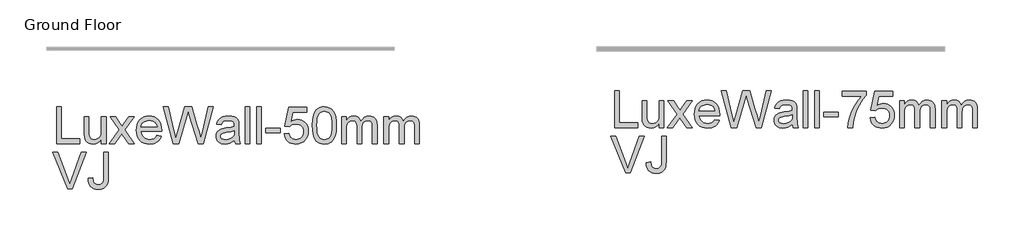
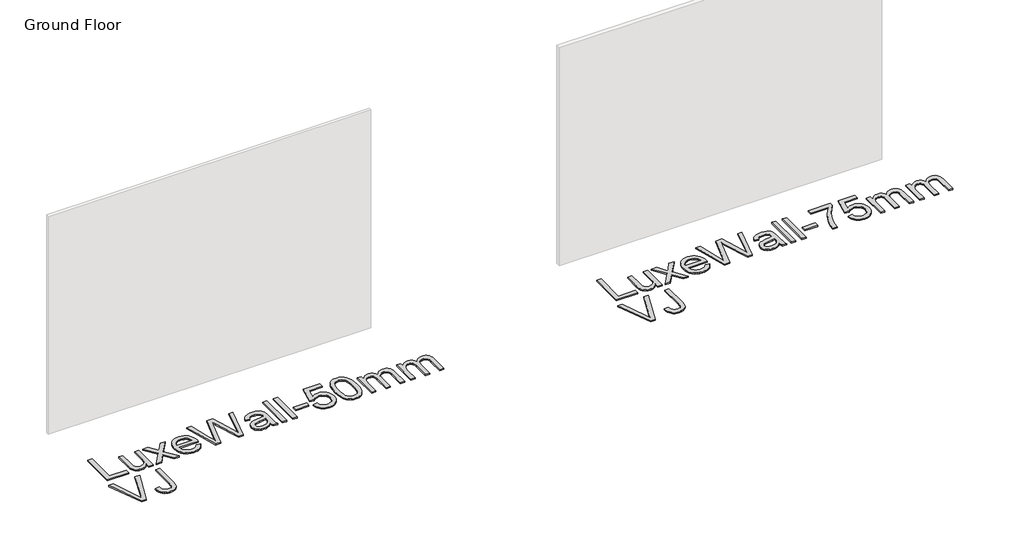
# One storey, part 3 of 3: 2 proxies.
"""IFC4 building model written with IfcOpenShell, lengths in millimetres."""

from ifc_helpers import new_model, si_unit, origin, origin_with_axes, place, context, project, spatial, polyline, outline, extrude, element, save

model = new_model("IFC4")

# Units and contexts
model_context = context("Model", 3, world=origin())
ifc_project = project(units=[si_unit("LENGTHUNIT", "METRE", prefix="MILLI")], contexts=[model_context])

# Site, building, storey
site = spatial("IfcSite", under=ifc_project)
building = spatial("IfcBuilding", under=site)
storey = spatial("IfcBuildingStorey", under=building, Name="Ground Floor", Elevation=0.0)

# Proxies
placement = place(None, origin())
element("IfcBuildingElementProxy", 1, Name="600mm Arial", ObjectType="600mm Arial", at=placement, inside=storey, context=model_context, shape_type="SweptSolid", body=[
    extrude(outline(polyline([(10166.4436981, -209.5904829), (10166.4436981, 381.1787478), (10240.2898519, 381.1787478), (10240.2898519, -135.7443291), (10535.6744673, -135.7443291), (10535.6744673, -209.5904829), (10166.4436981, -209.5904829)])), origin_with_axes(), (0.0, 0.0, 1.0), 20.0),
    extrude(outline(polyline([(10886.4436981, -209.5904829), (10886.4436981, -135.0231753), (10859.7249481, -171.6848339), (10828.6071596, -197.8717329), (10793.0903327, -213.5838724), (10753.1744673, -218.8212522), (10717.2069192, -215.1433676), (10683.7273519, -204.1097137), (10655.6384096, -187.5231753), (10635.8427365, -167.1866368), (10622.5194192, -142.4871176), (10613.8475442, -112.8116368), (10609.5206212, -44.1577906), (10609.5206212, 224.2556709), (10683.366775, 224.2556709), (10683.366775, -9.3981753), (10684.4845635, -56.1289445), (10687.8379289, -84.6866368), (10698.60115, -109.8008195), (10717.0446596, -128.8933676), (10741.9424962, -140.9546656), (10772.0686981, -144.9750983), (10803.9256692, -140.8645214), (10833.7273519, -128.5327906), (10858.3006692, -109.1157233), (10874.4725442, -83.7491368), (10883.4509096, -49.0075503), (10886.4436981, -1.4654829), (10886.4436981, 224.2556709), (10960.2898519, 224.2556709), (10960.2898519, -209.5904829), (10886.4436981, -209.5904829)])), origin_with_axes(), (0.0, 0.0, 1.0), 20.0),
    extrude(outline(polyline([(11015.6744673, -209.5904829), (11173.4629289, 8.4864401), (11024.9052365, 224.2556709), (11113.7513904, 224.2556709), (11185.4340827, 120.4095171), (11218.8956212, 71.3710555), (11247.8860058, 111.4672094), (11329.5206212, 224.2556709), (11418.366775, 224.2556709), (11262.3090827, 8.4864401), (11412.5975442, -209.5904829), (11323.7513904, -209.5904829), (11233.3186981, -78.4847137), (11216.7321596, -54.542406), (11104.5206212, -209.5904829), (11015.6744673, -209.5904829)])), origin_with_axes(), (0.0, 0.0, 1.0), 20.0),
    extrude(outline(polyline([(11780.9629289, -80.3597137), (11853.366775, -89.5904829), (11842.265513, -118.589882), (11827.2790346, -144.1457714), (11808.4073399, -166.2581512), (11785.6504289, -184.9270214), (11759.2426764, -199.7557474), (11729.4184577, -210.3476945), (11696.1777726, -216.7028628), (11659.5206212, -218.8212522), (11613.7003087, -215.1659036), (11572.8739865, -204.1998579), (11537.0416548, -185.9231152), (11506.2033135, -160.3356753), (11481.4046356, -128.1496777), (11463.6912942, -90.0772618), (11453.0632894, -46.1184277), (11449.5206212, 3.7268247), (11453.0993471, 55.2622815), (11463.835525, 100.6859594), (11481.7291548, 139.9978584), (11506.7802365, 173.1979786), (11537.5374481, 199.5741805), (11572.5494673, 218.4143247), (11611.8162942, 229.7184113), (11655.3379289, 233.4864401), (11697.4578207, 229.7274257), (11735.5482654, 218.4503824), (11769.609263, 199.6553103), (11799.6408135, 173.3422094), (11824.155537, 140.2142046), (11841.6660539, 100.9744209), (11852.1723639, 55.6228584), (11855.6744673, 4.1595171), (11855.241775, -15.7443291), (11523.366775, -15.7443291), (11527.6441188, -45.2124781), (11536.1492269, -71.0207714), (11548.8820995, -93.1692089), (11565.8427365, -111.6577906), (11586.093638, -126.2341128), (11608.6973039, -136.6457714), (11633.6537341, -142.8927666), (11660.9629289, -144.9750983), (11700.2658135, -141.1169253), (11733.366775, -129.542406), (11760.2658135, -109.5303868), (11780.9629289, -80.3597137)]), holes=[polyline([(11523.366775, 58.1018247), (11781.8283135, 58.1018247), (11771.8403327, 97.1162478), (11763.2495875, 112.4587959), (11752.2610058, 125.0249017), (11732.1227846, 140.1691324), (11709.2081212, 150.9864401), (11683.5170154, 157.4768247), (11655.0494673, 159.6402863), (11629.0834216, 157.9140243), (11605.2718231, 152.7352382), (11583.6146716, 144.1039281), (11564.1119673, 132.020094), (11547.7462822, 117.04263), (11535.5001885, 99.7304305), (11527.3736861, 80.0834954), (11523.366775, 58.1018247)])]), origin_with_axes(), (0.0, 0.0, 1.0), 20.0),
    extrude(outline(polyline([(12044.4725442, -209.5904829), (11883.366775, 381.1787478), (11959.5206212, 381.1787478), (12052.9821596, -7.0904829), (12081.8283135, -126.9462522), (12112.6936981, -20.9366368), (12229.8090827, 381.1787478), (12339.5686981, 381.1787478), (12424.6648519, 89.6883632), (12461.1191789, -18.4847137), (12487.9821596, -126.9462522), (12515.9629289, -10.5520214), (12610.2898519, 381.1787478), (12686.4436981, 381.1787478), (12525.1936981, -209.5904829), (12446.2994673, -209.5904829), (12304.6648519, 246.1787478), (12284.9052365, 309.7845171), (12262.6936981, 233.1979786), (12133.6071596, -209.5904829), (12044.4725442, -209.5904829)])), origin_with_axes(), (0.0, 0.0, 1.0), 20.0),
    extrude(outline(polyline([(13027.9821596, -154.2058676), (12992.6997077, -184.4582714), (12956.3715827, -204.2539445), (12918.1684577, -215.1794253), (12877.2610058, -218.8212522), (12844.3808976, -216.6307474), (12815.5482654, -210.0592329), (12790.7631091, -199.1067089), (12770.0254289, -183.7731753), (12753.6507293, -165.0321897), (12741.9545154, -143.8573099), (12734.936787, -120.2485358), (12732.5975442, -94.2058676), (12736.1311981, -63.5928868), (12746.7321596, -35.792406), (12763.0843231, -11.9943291), (12783.8715827, 6.6114401), (12808.3006692, 20.6739401), (12835.5783135, 30.8422094), (12899.4725442, 41.9479786), (12974.9773519, 53.6306709), (13027.5494673, 67.332594), (13027.9821596, 83.7749017), (13022.898025, 116.7316324), (13016.5428567, 128.9371613), (13007.6456212, 138.2941324), (12992.2670154, 147.6330747), (12973.5350442, 154.3037478), (12926.0110058, 159.6402863), (12882.0206212, 156.0886036), (12851.2994673, 145.4335555), (12830.3499481, 125.7280267), (12815.6744673, 95.0249017), (12741.8283135, 104.2556709), (12754.6468231, 144.6402863), (12773.7754289, 176.3710555), (12800.9989865, 200.6378824), (12838.1023519, 218.6306709), (12883.4809577, 229.7724978), (12935.5302365, 233.4864401), (12985.4521115, 230.2051901), (13025.0254289, 220.3614401), (13054.8631692, 205.5597574), (13075.5783135, 187.4047094), (13089.3162942, 164.9587959), (13098.2225442, 137.2845171), (13101.8283135, 72.6691324), (13101.8283135, -19.2058676), (13105.5783135, -147.4991368), (13111.1311981, -179.2118772), (13120.2898519, -209.5904829), (13046.4436981, -209.5904829), (13034.616775, -183.917406), (13027.9821596, -154.2058676)]), holes=[polyline([(13027.9821596, -6.5135599), (12978.366775, -18.8092329), (12908.8475442, -29.1577906), (12845.3138904, -41.1289445), (12828.7814385, -49.3140406), (12816.5398519, -60.6000983), (12808.9677365, -74.1217329), (12806.4436981, -89.0135599), (12811.9424962, -110.9726945), (12828.4388904, -128.9654829), (12855.5723039, -140.9726945), (12892.9821596, -144.9750983), (12932.6456212, -140.558031), (12967.6936981, -127.3068291), (12996.1071596, -107.7815887), (13015.866775, -84.542406), (13024.6287942, -60.6000983), (13027.5494673, -27.4270214), (13027.9821596, -6.5135599)])]), origin_with_axes(), (0.0, 0.0, 1.0), 20.0),
    extrude(outline(polyline([(13203.366775, -209.5904829), (13203.366775, 381.1787478), (13277.2129289, 381.1787478), (13277.2129289, -209.5904829), (13203.366775, -209.5904829)])), origin_with_axes(), (0.0, 0.0, 1.0), 20.0),
    extrude(outline(polyline([(13387.9821596, -209.5904829), (13387.9821596, 381.1787478), (13461.8283135, 381.1787478), (13461.8283135, -209.5904829), (13387.9821596, -209.5904829)])), origin_with_axes(), (0.0, 0.0, 1.0), 20.0),
    extrude(outline(polyline([(13535.6744673, -34.2058676), (13535.6744673, 39.6402863), (13766.4436981, 39.6402863), (13766.4436981, -34.2058676), (13535.6744673, -34.2058676)])), origin_with_axes(), (0.0, 0.0, 1.0), 20.0),
    extrude(outline(polyline([(13831.0590827, -52.667406), (13904.9052365, -43.4366368), (13910.4220635, -67.17612), (13918.4629289, -87.7695695), (13929.0278327, -105.2169853), (13942.116775, -119.5183676), (13957.7027125, -130.6556873), (13975.7586019, -138.6109156), (13996.2844433, -143.3840527), (14019.2802365, -144.9750983), (14047.4052365, -142.7620575), (14072.2129289, -136.1229349), (14093.7033135, -125.0577305), (14111.8763904, -109.5664445), (14126.3265106, -90.4153027), (14136.648025, -68.370531), (14142.8409337, -43.4321296), (14144.9052365, -15.6000983), (14142.9716428, 10.7039882), (14137.1708615, 34.0874017), (14127.5028928, 54.5501421), (14113.9677365, 72.0922094), (14096.5203207, 86.1637238), (14075.1155731, 96.2148055), (14049.7534938, 102.2454546), (14020.4340827, 104.2556709), (13984.6107654, 101.0465363), (13955.6023519, 91.4191324), (13932.4352846, 76.6715363), (13914.1360058, 58.1018247), (13840.2898519, 67.332594), (13904.9052365, 371.9479786), (14191.0590827, 371.9479786), (14191.0590827, 298.1018247), (13964.616775, 298.1018247), (13933.0302365, 135.4095171), (13959.0909337, 154.0874017), (13985.7826404, 167.4287478), (14013.1053567, 175.4335555), (14041.0590827, 178.1018247), (14077.0221236, 174.7935315), (14110.0554769, 164.8686517), (14140.1591428, 148.3271853), (14167.3331212, 125.1691324), (14189.8286139, 96.8097574), (14205.8968231, 64.6643247), (14215.5377486, 28.7328344), (14218.7513904, -10.9847137), (14215.8577606, -49.2419253), (14207.1768712, -84.8308676), (14192.7087221, -117.7515406), (14172.4533135, -148.0039445), (14141.7682173, -178.9865166), (14105.9629289, -201.1169253), (14065.0374481, -214.3951704), (14018.991775, -218.8212522), (13980.8833014, -215.9772017), (13946.4617269, -207.4450503), (13915.7270514, -193.2247978), (13888.679275, -173.3164445), (13866.1747678, -148.7115767), (13849.0699, -120.401781), (13837.3646716, -88.3870575), (13831.0590827, -52.667406)])), origin_with_axes(), (0.0, 0.0, 1.0), 20.0),
    extrude(outline(polyline([(14283.366775, 81.0345171), (14288.7934577, 175.5958151), (14295.5768111, 215.6964762), (14305.0735058, 251.0104786), (14317.2429769, 281.8262839), (14332.0446596, 308.4323536), (14349.4785539, 330.8286877), (14369.5446596, 349.0152863), (14392.3105851, 363.0868007), (14417.8439385, 373.1378824), (14446.1447197, 379.1685315), (14477.2129289, 381.1787478), (14522.7177365, 376.4191324), (14563.4629289, 362.1402863), (14597.5374481, 338.9011036), (14623.0302365, 307.2604786), (14642.2850442, 267.488844), (14657.6456212, 219.8566324), (14667.7057173, 159.3698536), (14671.0590827, 81.0345171), (14665.6864865, -12.9859156), (14658.9707414, -52.9513603), (14649.5686981, -88.2202906), (14637.4938784, -119.0496176), (14622.7598039, -145.6962522), (14605.3664745, -168.1601945), (14585.3138904, -186.4414445), (14562.5209216, -200.6076103), (14536.9064385, -210.7263003), (14508.4704409, -216.7975142), (14477.2129289, -218.8212522), (14436.5398519, -215.3056272), (14400.4821596, -204.7587522), (14369.0398519, -187.1806272), (14342.2129289, -162.5712522), (14316.4677365, -118.0850743), (14298.0783135, -62.6553868), (14287.0446596, 3.7178103), (14283.366775, 81.0345171)]), holes=[polyline([(14357.2129289, 81.1787478), (14359.3763904, 16.9825339), (14365.866775, -34.9811079), (14376.6840827, -74.7121777), (14391.8283135, -102.2106753), (14410.1456212, -120.9201103), (14430.4821596, -134.2839926), (14452.8379289, -142.3023219), (14477.2129289, -144.9750983), (14501.5879289, -142.2933075), (14523.9436981, -134.2479349), (14544.2802365, -120.8389805), (14562.5975442, -102.0664445), (14577.741775, -74.5228748), (14588.5590827, -34.8008195), (14595.0494673, 17.0997214), (14597.2129289, 81.1787478), (14595.1215827, 143.675743), (14588.8475442, 194.7244209), (14578.3908135, 234.3247815), (14563.7513904, 262.4768247), (14545.7405731, 282.1012238), (14525.1696596, 296.1186517), (14502.03865, 304.5291084), (14476.3475442, 307.332594), (14452.0987462, 304.8626421), (14430.1215827, 297.4527863), (14410.4160539, 285.1030267), (14392.9821596, 267.8133632), (14377.3331212, 237.1643247), (14366.1552365, 195.8422094), (14359.4485058, 143.8470171), (14357.2129289, 81.1787478)])]), origin_with_axes(), (0.0, 0.0, 1.0), 20.0),
    extrude(outline(polyline([(14754.1360058, -209.5904829), (14754.1360058, 224.2556709), (14827.9821596, 224.2556709), (14827.9821596, 152.8614401), (14850.1936981, 185.6559113), (14878.7513904, 211.3470171), (14912.6816789, 227.9515844), (14951.0110058, 233.4864401), (14992.0807173, 227.8434113), (15009.5596837, 220.7896252), (15025.0013904, 210.9143247), (15049.5927365, 183.816969), (15065.6744673, 147.6691324), (15092.5915346, 185.2142046), (15123.2946596, 212.0321132), (15157.7838423, 228.1228584), (15196.0590827, 233.4864401), (15225.6218832, 231.2553704), (15251.5699, 224.5621613), (15273.9031332, 213.4068127), (15292.6215827, 197.7893247), (15307.4187582, 177.5294089), (15317.9881692, 152.4467767), (15324.3298159, 122.5414281), (15326.4436981, 87.8133632), (15326.4436981, -209.5904829), (15252.5975442, -209.5904829), (15252.5975442, 56.082594), (15250.8848039, 92.9155267), (15245.7465827, 117.7412478), (15236.1191789, 134.7424497), (15220.9388904, 148.1018247), (15201.41365, 156.7556709), (15178.7513904, 159.6402863), (15157.8244072, 157.7923296), (15138.7453808, 152.2484594), (15121.5143111, 143.0086757), (15106.1311981, 130.0729786), (15093.4794553, 113.0627622), (15084.4424962, 91.5994209), (15079.0203207, 65.6829546), (15077.2129289, 35.3133632), (15077.2129289, -209.5904829), (15003.366775, -209.5904829), (15003.366775, 64.3037478), (14999.0939385, 106.0585555), (14986.2754289, 135.8422094), (14976.3640707, 146.253868), (14963.7213423, 153.6907671), (14948.3472438, 158.1529065), (14930.241775, 159.6402863), (14901.7922558, 155.6739401), (14875.5783135, 143.7749017), (14853.9436981, 124.2316324), (14839.2321596, 97.332594), (14830.7946596, 60.0128824), (14827.9821596, 9.207594), (14827.9821596, -209.5904829), (14754.1360058, -209.5904829)])), origin_with_axes(), (0.0, 0.0, 1.0), 20.0),
    extrude(outline(polyline([(15437.2129289, -209.5904829), (15437.2129289, 224.2556709), (15511.0590827, 224.2556709), (15511.0590827, 152.8614401), (15533.2706212, 185.6559113), (15561.8283135, 211.3470171), (15595.7586019, 227.9515844), (15634.0879289, 233.4864401), (15675.1576404, 227.8434113), (15692.6366067, 220.7896252), (15708.0783135, 210.9143247), (15732.6696596, 183.816969), (15748.7513904, 147.6691324), (15775.6684577, 185.2142046), (15806.3715827, 212.0321132), (15840.8607654, 228.1228584), (15879.1360058, 233.4864401), (15908.6988063, 231.2553704), (15934.6468231, 224.5621613), (15956.9800563, 213.4068127), (15975.6985058, 197.7893247), (15990.4956813, 177.5294089), (16001.0650923, 152.4467767), (16007.4067389, 122.5414281), (16009.5206212, 87.8133632), (16009.5206212, -209.5904829), (15935.6744673, -209.5904829), (15935.6744673, 56.082594), (15933.9617269, 92.9155267), (15928.8235058, 117.7412478), (15919.1961019, 134.7424497), (15904.0158135, 148.1018247), (15884.4905731, 156.7556709), (15861.8283135, 159.6402863), (15840.9013303, 157.7923296), (15821.8223039, 152.2484594), (15804.5912341, 143.0086757), (15789.2081212, 130.0729786), (15776.5563784, 113.0627622), (15767.5194192, 91.5994209), (15762.0972438, 65.6829546), (15760.2898519, 35.3133632), (15760.2898519, -209.5904829), (15686.4436981, -209.5904829), (15686.4436981, 64.3037478), (15682.1708615, 106.0585555), (15669.3523519, 135.8422094), (15659.4409938, 146.253868), (15646.7982654, 153.6907671), (15631.4241668, 158.1529065), (15613.3186981, 159.6402863), (15584.8691789, 155.6739401), (15558.6552365, 143.7749017), (15537.0206212, 124.2316324), (15522.3090827, 97.332594), (15513.8715827, 60.0128824), (15511.0590827, 9.207594), (15511.0590827, -209.5904829), (15437.2129289, -209.5904829)])), origin_with_axes(), (0.0, 0.0, 1.0), 20.0),
    extrude(outline(polyline([(10340.9629289, -938.8212522), (10105.866775, -348.0520214), (10184.9052365, -348.0520214), (10342.2610058, -773.6770214), (10374.1360058, -869.5904829), (10405.5783135, -773.6770214), (10563.366775, -348.0520214), (10642.4052365, -348.0520214), (10417.2610058, -938.8212522), (10340.9629289, -938.8212522)])), origin_with_axes(), (0.0, 0.0, 1.0), 20.0),
    extrude(outline(polyline([(10674.1360058, -772.9558676), (10747.9821596, -763.4366368), (10755.6624481, -817.1265406), (10763.2075202, -836.4264204), (10773.2225442, -850.6962522), (10785.554275, -860.9817089), (10800.0494673, -868.3284637), (10816.7081212, -872.7365166), (10835.5302365, -874.2058676), (10862.8078808, -870.870531), (10886.0831212, -860.8645214), (10904.0398519, -845.1073099), (10915.3619673, -824.5183676), (10921.3655731, -794.7166849), (10923.366775, -751.3212522), (10923.366775, -348.0520214), (10997.2129289, -348.0520214), (10997.2129289, -750.0231753), (10992.7598039, -815.7743772), (10987.1933976, -842.362418), (10979.4004289, -864.7587522), (10969.1870875, -883.8558075), (10956.3595635, -900.5460118), (10940.9178567, -914.8293652), (10922.8619673, -926.7058676), (10880.8006692, -942.7154829), (10832.0686981, -948.0520214), (10795.6774721, -945.2981152), (10763.8114865, -937.0363964), (10736.4707414, -923.2668652), (10713.6552365, -903.9895214), (10695.7706212, -879.2764805), (10683.2225442, -849.1998579), (10676.0110058, -813.7596536), (10674.1360058, -772.9558676)])), origin_with_axes(), (0.0, 0.0, 1.0), 20.0),
])
element("IfcBuildingElementProxy", 2, Name="600mm Arial", ObjectType="600mm Arial", at=placement, inside=storey, context=model_context, shape_type="SweptSolid", body=[
    extrude(outline(polyline([(19153.7836338, 47.7691621), (19153.7836338, 638.5383928), (19227.6297876, 638.5383928), (19227.6297876, 121.6153159), (19523.014403, 121.6153159), (19523.014403, 47.7691621), (19153.7836338, 47.7691621)])), origin_with_axes(), (0.0, 0.0, 1.0), 20.0),
    extrude(outline(polyline([(19873.7836338, 47.7691621), (19873.7836338, 122.3364698), (19847.0648838, 85.6748111), (19815.9470953, 59.4879121), (19780.4302684, 43.7757726), (19740.514403, 38.5383928), (19704.5468549, 42.2162774), (19671.0672876, 53.2499313), (19642.9783453, 69.8364698), (19623.1826722, 90.1730082), (19609.8593549, 114.8725274), (19601.1874799, 144.5480082), (19596.8605568, 213.2018544), (19596.8605568, 481.6153159), (19670.7067107, 481.6153159), (19670.7067107, 247.9614698), (19671.8244992, 201.2307005), (19675.1778645, 172.6730082), (19685.9410857, 147.5588255), (19704.3845953, 128.4662774), (19729.2824318, 116.4049794), (19759.4086338, 112.3845467), (19791.2656049, 116.4951236), (19821.0672876, 128.8268544), (19845.6406049, 148.2439217), (19861.8124799, 173.6105082), (19870.7908453, 208.3520948), (19873.7836338, 255.8941621), (19873.7836338, 481.6153159), (19947.6297876, 481.6153159), (19947.6297876, 47.7691621), (19873.7836338, 47.7691621)])), origin_with_axes(), (0.0, 0.0, 1.0), 20.0),
    extrude(outline(polyline([(20003.014403, 47.7691621), (20160.8028645, 265.8460851), (20012.2451722, 481.6153159), (20101.0913261, 481.6153159), (20172.7740184, 377.7691621), (20206.2355568, 328.7307005), (20235.2259415, 368.8268544), (20316.8605568, 481.6153159), (20405.7067107, 481.6153159), (20249.6490184, 265.8460851), (20399.9374799, 47.7691621), (20311.0913261, 47.7691621), (20220.6586338, 178.8749313), (20204.0720953, 202.817239), (20091.8605568, 47.7691621), (20003.014403, 47.7691621)])), origin_with_axes(), (0.0, 0.0, 1.0), 20.0),
    extrude(outline(polyline([(20768.3028645, 176.9999313), (20840.7067107, 167.7691621), (20829.6054487, 138.769763), (20814.6189703, 113.2138736), (20795.7472756, 91.1014938), (20772.9903645, 72.4326236), (20746.5826121, 57.6038976), (20716.7583934, 47.0119505), (20683.5177083, 40.6567823), (20646.8605568, 38.5383928), (20601.0402443, 42.1937414), (20560.2139222, 53.1597871), (20524.3815905, 71.4365299), (20493.5432492, 97.0239698), (20468.7445713, 129.2099674), (20451.0312299, 167.2823832), (20440.4032251, 211.2412174), (20436.8605568, 261.0864698), (20440.4392828, 312.6219265), (20451.1754607, 358.0456044), (20469.0690905, 397.3575034), (20494.1201722, 430.5576236), (20524.8773838, 456.9338255), (20559.889403, 475.7739698), (20599.1562299, 487.0780563), (20642.6778645, 490.8460851), (20684.7977564, 487.0870707), (20722.8882011, 475.8100274), (20756.9491987, 457.0149553), (20786.9807492, 430.7018544), (20811.4954727, 397.5738496), (20829.0059895, 358.3340659), (20839.5122996, 312.9825034), (20843.014403, 261.5191621), (20842.5817107, 241.6153159), (20510.7067107, 241.6153159), (20514.9840544, 212.1471669), (20523.4891626, 186.3388736), (20536.2220352, 164.1904361), (20553.1826722, 145.7018544), (20573.4335737, 131.1255323), (20596.0372395, 120.7138736), (20620.9936698, 114.4668784), (20648.3028645, 112.3845467), (20687.6057492, 116.2427198), (20720.7067107, 127.817239), (20747.6057492, 147.8292582), (20768.3028645, 176.9999313)]), holes=[polyline([(20510.7067107, 315.4614698), (20769.1682492, 315.4614698), (20759.1802684, 354.4758928), (20750.5895232, 369.8184409), (20739.6009415, 382.3845467), (20719.4627203, 397.5287774), (20696.5480568, 408.3460851), (20670.8569511, 414.8364698), (20642.389403, 416.9999313), (20616.4233573, 415.2736693), (20592.6117588, 410.0948832), (20570.9546073, 401.4635731), (20551.451903, 389.379739), (20535.0862179, 374.402275), (20522.8401242, 357.0900755), (20514.7136217, 337.4431404), (20510.7067107, 315.4614698)])]), origin_with_axes(), (0.0, 0.0, 1.0), 20.0),
    extrude(outline(polyline([(21031.8124799, 47.7691621), (20870.7067107, 638.5383928), (20946.8605568, 638.5383928), (21040.3220953, 250.2691621), (21069.1682492, 130.4133928), (21100.0336338, 236.4230082), (21217.1490184, 638.5383928), (21326.9086338, 638.5383928), (21412.0047876, 347.0480082), (21448.4591145, 238.8749313), (21475.3220953, 130.4133928), (21503.3028645, 246.8076236), (21597.6297876, 638.5383928), (21673.7836338, 638.5383928), (21512.5336338, 47.7691621), (21433.639403, 47.7691621), (21292.0047876, 503.5383928), (21272.2451722, 567.1441621), (21250.0336338, 490.5576236), (21120.9470953, 47.7691621), (21031.8124799, 47.7691621)])), origin_with_axes(), (0.0, 0.0, 1.0), 20.0),
    extrude(outline(polyline([(22015.3220953, 103.1537774), (21980.0396434, 72.9013736), (21943.7115184, 53.1057005), (21905.5083934, 42.1802198), (21864.6009415, 38.5383928), (21831.7208333, 40.7288976), (21802.8882011, 47.3004121), (21778.1030448, 58.2529361), (21757.3653645, 73.5864698), (21740.990665, 92.3274553), (21729.2944511, 113.5023351), (21722.2767227, 137.1111092), (21719.9374799, 163.1537774), (21723.4711338, 193.7667582), (21734.0720953, 221.567239), (21750.4242588, 245.3653159), (21771.2115184, 263.9710851), (21795.6406049, 278.0335851), (21822.9182492, 288.2018544), (21886.8124799, 299.3076236), (21962.3172876, 310.9903159), (22014.889403, 324.692239), (22015.3220953, 341.1345467), (22010.2379607, 374.0912774), (22003.8827924, 386.2968063), (21994.9855568, 395.6537774), (21979.6069511, 404.9927198), (21960.8749799, 411.6633928), (21913.3509415, 416.9999313), (21869.3605568, 413.4482486), (21838.639403, 402.7932005), (21817.6898838, 383.0876717), (21803.014403, 352.3845467), (21729.1682492, 361.6153159), (21741.9867588, 401.9999313), (21761.1153645, 433.7307005), (21788.3389222, 457.9975274), (21825.4422876, 475.9903159), (21870.8208934, 487.1321428), (21922.8701722, 490.8460851), (21972.7920472, 487.5648351), (22012.3653645, 477.7210851), (22042.2031049, 462.9194024), (22062.9182492, 444.7643544), (22076.6562299, 422.3184409), (22085.5624799, 394.6441621), (22089.1682492, 330.0287774), (22089.1682492, 238.1537774), (22092.9182492, 109.8605082), (22098.4711338, 78.1477678), (22107.6297876, 47.7691621), (22033.7836338, 47.7691621), (22021.9567107, 73.442239), (22015.3220953, 103.1537774)]), holes=[polyline([(22015.3220953, 250.8460851), (21965.7067107, 238.5504121), (21896.1874799, 228.2018544), (21832.6538261, 216.2307005), (21816.1213742, 208.0456044), (21803.8797876, 196.7595467), (21796.3076722, 183.2379121), (21793.7836338, 168.3460851), (21799.2824318, 146.3869505), (21815.7788261, 128.3941621), (21842.9122395, 116.3869505), (21880.3220953, 112.3845467), (21919.9855568, 116.801614), (21955.0336338, 130.0528159), (21983.4470953, 149.5780563), (22003.2067107, 172.817239), (22011.9687299, 196.7595467), (22014.889403, 229.9326236), (22015.3220953, 250.8460851)])]), origin_with_axes(), (0.0, 0.0, 1.0), 20.0),
    extrude(outline(polyline([(22190.7067107, 47.7691621), (22190.7067107, 638.5383928), (22264.5528645, 638.5383928), (22264.5528645, 47.7691621), (22190.7067107, 47.7691621)])), origin_with_axes(), (0.0, 0.0, 1.0), 20.0),
    extrude(outline(polyline([(22375.3220953, 47.7691621), (22375.3220953, 638.5383928), (22449.1682492, 638.5383928), (22449.1682492, 47.7691621), (22375.3220953, 47.7691621)])), origin_with_axes(), (0.0, 0.0, 1.0), 20.0),
    extrude(outline(polyline([(22523.014403, 223.1537774), (22523.014403, 296.9999313), (22753.7836338, 296.9999313), (22753.7836338, 223.1537774), (22523.014403, 223.1537774)])), origin_with_axes(), (0.0, 0.0, 1.0), 20.0),
    extrude(outline(polyline([(22818.3990184, 555.4614698), (22818.3990184, 629.3076236), (23206.0913261, 629.3076236), (23206.0913261, 569.5960851), (23150.8329126, 499.6621909), (23096.1153645, 410.7258928), (23047.8521434, 310.9001717), (23011.9567107, 208.2980082), (22994.3605568, 131.5311813), (22984.5528645, 47.7691621), (22910.7067107, 47.7691621), (22918.6934895, 123.8869505), (22940.0576722, 214.3557005), (22974.2223357, 310.2511332), (23020.6105568, 402.6489698), (23074.7692107, 486.176614), (23132.2451722, 555.4614698), (22818.3990184, 555.4614698)])), origin_with_axes(), (0.0, 0.0, 1.0), 20.0),
    extrude(outline(polyline([(23270.7067107, 204.692239), (23344.5528645, 213.9230082), (23350.0696915, 190.183525), (23358.1105568, 169.5900755), (23368.6754607, 152.1426597), (23381.764403, 137.8412774), (23397.3503405, 126.7039577), (23415.4062299, 118.7487294), (23435.9320713, 113.9755924), (23458.9278645, 112.3845467), (23487.0528645, 114.5975875), (23511.8605568, 121.2367101), (23533.3509415, 132.3019145), (23551.5240184, 147.7932005), (23565.9741386, 166.9443424), (23576.295653, 188.989114), (23582.4885617, 213.9275154), (23584.5528645, 241.7595467), (23582.6192708, 268.0636332), (23576.8184895, 291.4470467), (23567.1505208, 311.9097871), (23553.6153645, 329.4518544), (23536.1679487, 343.5233688), (23514.7632011, 353.5744505), (23489.4011217, 359.6050996), (23460.0817107, 361.6153159), (23424.2583934, 358.4061813), (23395.2499799, 348.7787774), (23372.0829126, 334.0311813), (23353.7836338, 315.4614698), (23279.9374799, 324.692239), (23344.5528645, 629.3076236), (23630.7067107, 629.3076236), (23630.7067107, 555.4614698), (23404.264403, 555.4614698), (23372.6778645, 392.7691621), (23398.7385617, 411.4470467), (23425.4302684, 424.7883928), (23452.7529847, 432.7932005), (23480.7067107, 435.4614698), (23516.6697516, 432.1531765), (23549.7031049, 422.2282967), (23579.8067708, 405.6868303), (23606.9807492, 382.5287774), (23629.4762419, 354.1694024), (23645.5444511, 322.0239698), (23655.1853766, 286.0924794), (23658.3990184, 246.3749313), (23655.5053886, 208.1177198), (23646.8244992, 172.5287774), (23632.3563501, 139.6081044), (23612.1009415, 109.3557005), (23581.4158453, 78.3731284), (23545.6105568, 56.2427198), (23504.6850761, 42.9644746), (23458.639403, 38.5383928), (23420.5309294, 41.3824433), (23386.1093549, 49.9145948), (23355.3746794, 64.1348472), (23328.326903, 84.0432005), (23305.8223958, 108.6480683), (23288.717528, 136.957864), (23277.0122996, 168.9725875), (23270.7067107, 204.692239)])), origin_with_axes(), (0.0, 0.0, 1.0), 20.0),
    extrude(outline(polyline([(23741.4759415, 47.7691621), (23741.4759415, 481.6153159), (23815.3220953, 481.6153159), (23815.3220953, 410.2210851), (23837.5336338, 443.0155563), (23866.0913261, 468.7066621), (23900.0216145, 485.3112294), (23938.3509415, 490.8460851), (23979.420653, 485.2030563), (23996.8996193, 478.1492702), (24012.3413261, 468.2739698), (24036.9326722, 441.176614), (24053.014403, 405.0287774), (24079.9314703, 442.5738496), (24110.6345953, 469.3917582), (24145.123778, 485.4825034), (24183.3990184, 490.8460851), (24212.9618189, 488.6150154), (24238.9098357, 481.9218063), (24261.2430689, 470.7664577), (24279.9615184, 455.1489698), (24294.7586939, 434.8890539), (24305.3281049, 409.8064217), (24311.6697516, 379.9010731), (24313.7836338, 345.1730082), (24313.7836338, 47.7691621), (24239.9374799, 47.7691621), (24239.9374799, 313.442239), (24238.2247395, 350.2751717), (24233.0865184, 375.1008928), (24223.4591145, 392.1020948), (24208.2788261, 405.4614698), (24188.7535857, 414.1153159), (24166.0913261, 416.9999313), (24145.1643429, 415.1519746), (24126.0853165, 409.6081044), (24108.8542467, 400.3683207), (24093.4711338, 387.4326236), (24080.819391, 370.4224073), (24071.7824318, 348.9590659), (24066.3602564, 323.0425996), (24064.5528645, 292.6730082), (24064.5528645, 47.7691621), (23990.7067107, 47.7691621), (23990.7067107, 321.6633928), (23986.4338742, 363.4182005), (23973.6153645, 393.2018544), (23963.7040064, 403.613513), (23951.061278, 411.0504121), (23935.6871794, 415.5125515), (23917.5817107, 416.9999313), (23889.1321915, 413.0335851), (23862.9182492, 401.1345467), (23841.2836338, 381.5912774), (23826.5720953, 354.692239), (23818.1345953, 317.3725274), (23815.3220953, 266.567239), (23815.3220953, 47.7691621), (23741.4759415, 47.7691621)])), origin_with_axes(), (0.0, 0.0, 1.0), 20.0),
    extrude(outline(polyline([(24424.5528645, 47.7691621), (24424.5528645, 481.6153159), (24498.3990184, 481.6153159), (24498.3990184, 410.2210851), (24520.6105568, 443.0155563), (24549.1682492, 468.7066621), (24583.0985376, 485.3112294), (24621.4278645, 490.8460851), (24662.4975761, 485.2030563), (24679.9765424, 478.1492702), (24695.4182492, 468.2739698), (24720.0095953, 441.176614), (24736.0913261, 405.0287774), (24763.0083934, 442.5738496), (24793.7115184, 469.3917582), (24828.2007011, 485.4825034), (24866.4759415, 490.8460851), (24896.0387419, 488.6150154), (24921.9867588, 481.9218063), (24944.3199919, 470.7664577), (24963.0384415, 455.1489698), (24977.8356169, 434.8890539), (24988.405028, 409.8064217), (24994.7466746, 379.9010731), (24996.8605568, 345.1730082), (24996.8605568, 47.7691621), (24923.014403, 47.7691621), (24923.014403, 313.442239), (24921.3016626, 350.2751717), (24916.1634415, 375.1008928), (24906.5360376, 392.1020948), (24891.3557492, 405.4614698), (24871.8305088, 414.1153159), (24849.1682492, 416.9999313), (24828.241266, 415.1519746), (24809.1622395, 409.6081044), (24791.9311698, 400.3683207), (24776.5480568, 387.4326236), (24763.8963141, 370.4224073), (24754.8593549, 348.9590659), (24749.4371794, 323.0425996), (24747.6297876, 292.6730082), (24747.6297876, 47.7691621), (24673.7836338, 47.7691621), (24673.7836338, 321.6633928), (24669.5107972, 363.4182005), (24656.6922876, 393.2018544), (24646.7809294, 403.613513), (24634.1382011, 411.0504121), (24618.7641025, 415.5125515), (24600.6586338, 416.9999313), (24572.2091145, 413.0335851), (24545.9951722, 401.1345467), (24524.3605568, 381.5912774), (24509.6490184, 354.692239), (24501.2115184, 317.3725274), (24498.3990184, 266.567239), (24498.3990184, 47.7691621), (24424.5528645, 47.7691621)])), origin_with_axes(), (0.0, 0.0, 1.0), 20.0),
    extrude(outline(polyline([(19328.3028645, -681.4616072), (19093.2067107, -90.6923764), (19172.2451722, -90.6923764), (19329.6009415, -516.3173764), (19361.4759415, -612.2308379), (19392.9182492, -516.3173764), (19550.7067107, -90.6923764), (19629.7451722, -90.6923764), (19404.6009415, -681.4616072), (19328.3028645, -681.4616072)])), origin_with_axes(), (0.0, 0.0, 1.0), 20.0),
    extrude(outline(polyline([(19661.4759415, -515.5962226), (19735.3220953, -506.0769918), (19743.0023838, -559.7668956), (19750.5474559, -579.0667754), (19760.5624799, -593.3366072), (19772.8942107, -603.6220639), (19787.389403, -610.9688187), (19804.0480568, -615.3768716), (19822.8701722, -616.8462226), (19850.1478165, -613.510886), (19873.4230568, -603.5048764), (19891.3797876, -587.7476649), (19902.701903, -567.1587226), (19908.7055088, -537.3570399), (19910.7067107, -493.9616072), (19910.7067107, -90.6923764), (19984.5528645, -90.6923764), (19984.5528645, -492.6635302), (19980.0997395, -558.4147322), (19974.5333333, -585.002773), (19966.7403645, -607.3991072), (19956.5270232, -626.4961625), (19943.6994992, -643.1863668), (19928.2577924, -657.4697201), (19910.201903, -669.3462226), (19868.1406049, -685.3558379), (19819.4086338, -690.6923764), (19783.0174078, -687.9384701), (19751.1514222, -679.6767514), (19723.810677, -665.9072201), (19700.9951722, -646.6298764), (19683.1105568, -621.9168355), (19670.5624799, -591.8402129), (19663.3509415, -556.4000086), (19661.4759415, -515.5962226)])), origin_with_axes(), (0.0, 0.0, 1.0), 20.0),
])

save(model, "model.ifc")
